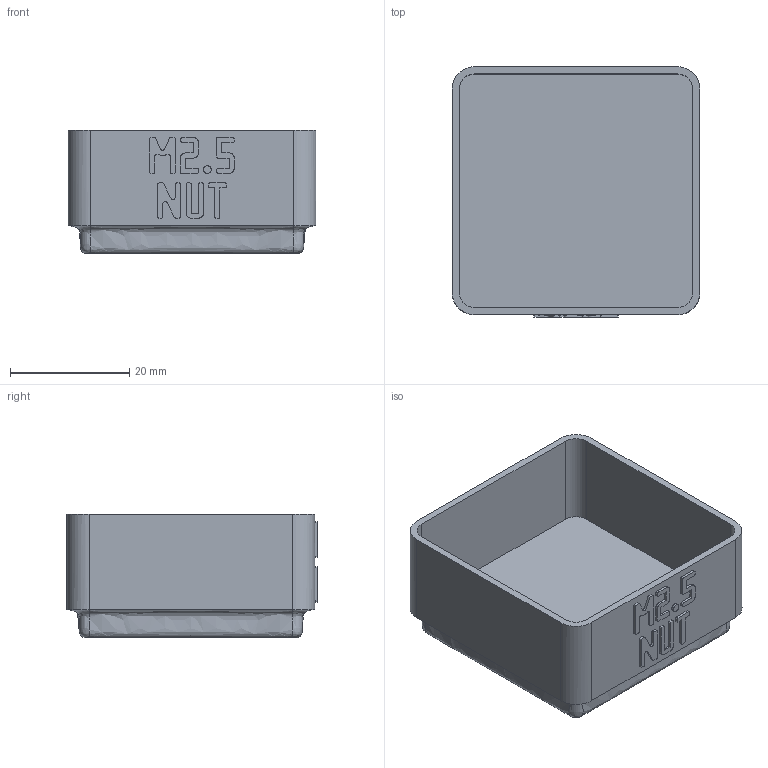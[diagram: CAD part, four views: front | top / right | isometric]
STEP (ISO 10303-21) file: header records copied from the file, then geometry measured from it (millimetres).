
FILE_DESCRIPTION(('Open CASCADE Model'),'2;1');
FILE_NAME('Open CASCADE Shape Model','2026-11-03T15:27:45',('Author'),( 'Open CASCADE'),'Open CASCADE STEP processor 8.0','build123d', 'Unknown');
FILE_SCHEMA(('AUTOMOTIVE_DESIGN { 1 0 10303 214 1 1 1 1 }'));
Length unit declared in the file: millimetre
Products named in the file (1): COMPOUND
Bounding box: 41.5 x 41.9 x 20.75 mm (x, y, z)
Volume: 9654.1 mm3; surface area: 8997.7 mm2
Topology: 1 solids, 1 shells, 635 faces, 1867 edges, 1242 vertices
Faces by surface type: plane 619, bspline 8, cylinder 8
Entity records: 44176 total; most frequent: CARTESIAN_POINT 9269, DIRECTION 5611, LINE 4327, VECTOR 4327, ORIENTED_EDGE 3734, PCURVE 3734, DEFINITIONAL_REPRESENTATION 3734, EDGE_CURVE 1867
